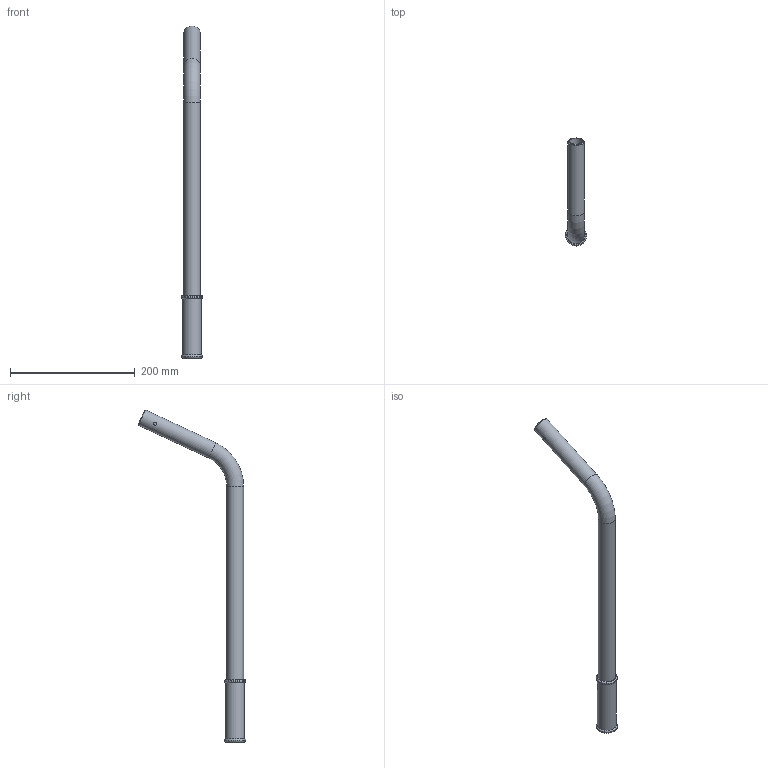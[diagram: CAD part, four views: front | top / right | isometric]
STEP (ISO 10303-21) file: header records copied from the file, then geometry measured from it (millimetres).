
FILE_DESCRIPTION(/* description */ ('Unknown'),/* implementation_level */ '2;1');
FILE_NAME(/* name */ 'LV27X600P',/* time_stamp */ '2024-11-27T16:39:21+01:00',/* author */ ('Unknown'),/* organization */ ('Unknown'),/* preprocessor_version */ 'ST-DEVELOPER v19.4',/* originating_system */ 'Solid Edge',/* authorisation */ 'Unknown');
FILE_SCHEMA (('AUTOMOTIVE_DESIGN {1 0 10303 214 3 1 1}'));
Length unit declared in the file: millimetre
Products named in the file (1): LV27X600P
Bounding box: 33.97 x 172.27 x 532.21 mm (x, y, z)
Volume: 133711.9 mm3; surface area: 95970.4 mm2
Topology: 1 solids, 1 shells, 19 faces, 43 edges, 27 vertices
Faces by surface type: cylinder 8, torus 6, plane 4, cone 1
Full cylindrical faces by diameter (mm): 5 x1, 22 x2, 27 x2, 30 x1, 34 x2
Entity records: 432 total; most frequent: CARTESIAN_POINT 78, DIRECTION 74, ORIENTED_EDGE 38, EDGE_LOOP 38, FACE_BOUND 38, AXIS2_PLACEMENT_3D 37, EDGE_CURVE 19, VERTEX_POINT 19
